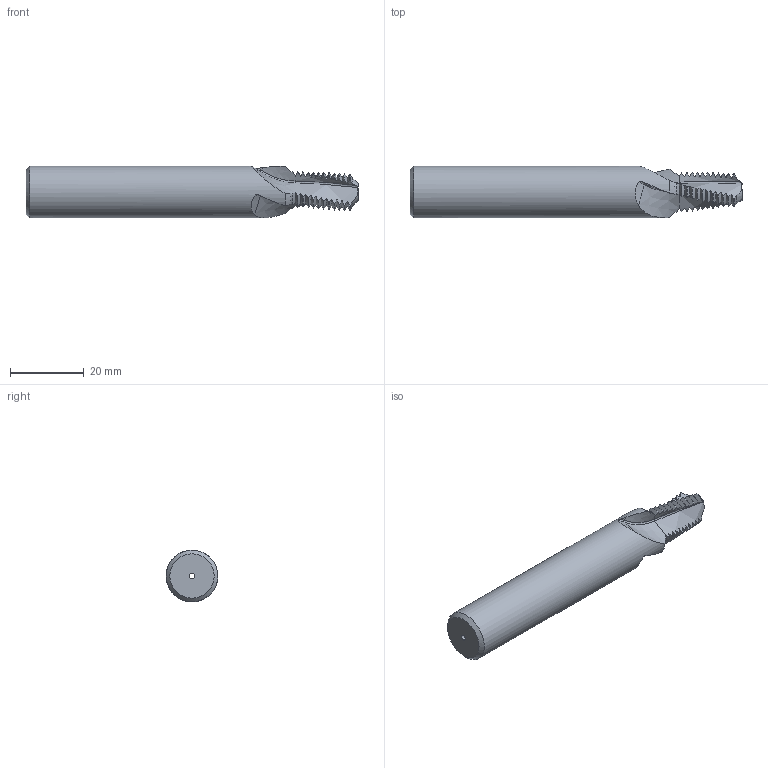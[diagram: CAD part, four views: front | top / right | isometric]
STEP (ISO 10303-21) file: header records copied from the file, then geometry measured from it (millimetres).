
FILE_DESCRIPTION(/* description */ (''),/* implementation_level */ '2;1');
FILE_NAME(/* name */ '171609-00036537-STEP',/* time_stamp */ '2024-02-21T12:54:51+01:00',/* author */ (''),/* organization */ (''),/* preprocessor_version */ 'ST-DEVELOPER v16.5',/* originating_system */ 'HiCAD 2017 2201.0 Build 268',/* authorisation */ '');
FILE_SCHEMA (('AUTOMOTIVE_DESIGN { 1 0 10303 214 1 1 1 1 }'));
Length unit declared in the file: millimetre
Products named in the file (2): Root; ROTATIONSTEIL_0
Assembly tree (1 placements, depth 2):
  Root
    ROTATIONSTEIL_0
Bounding box: 90 x 14 x 14 mm (x, y, z)
Volume: 10877.5 mm3; surface area: 4461.4 mm2
Topology: 1 solids, 1 shells, 182 faces, 597 edges, 417 vertices
Faces by surface type: cone 76, torus 69, bspline 27, cylinder 8, plane 2
Full cylindrical faces by diameter (mm): 1.5 x1, 14 x1
Entity records: 20837 total; most frequent: CARTESIAN_POINT 10904, PRESENTATION_STYLE_ASSIGNMENT 1181, COLOUR_RGB 1181, DRAUGHTING_PRE_DEFINED_CURVE_FONT 1180, CURVE_STYLE 1180, OVER_RIDING_STYLED_ITEM 1180, ORIENTED_EDGE 1180, DIRECTION 630
